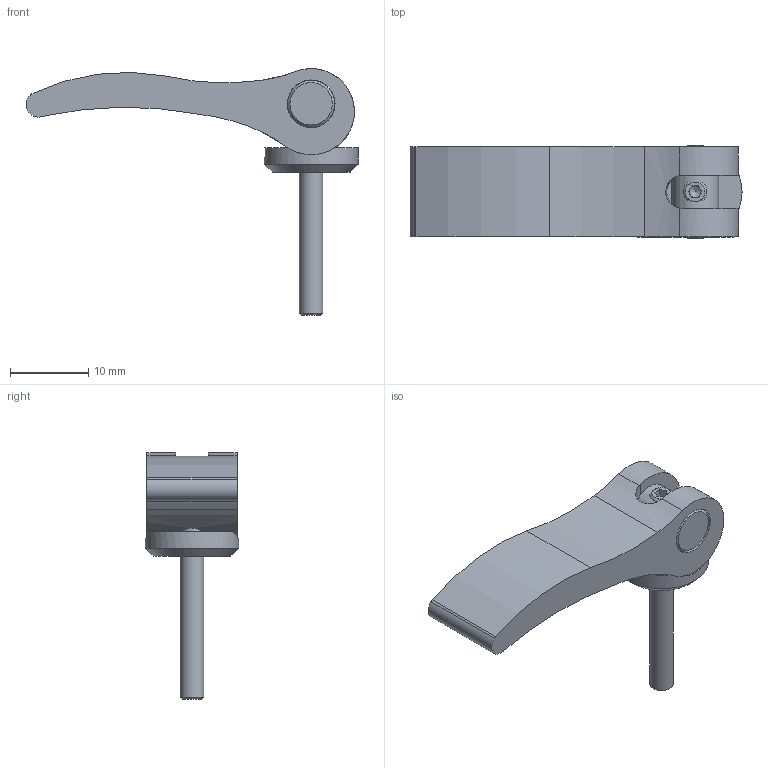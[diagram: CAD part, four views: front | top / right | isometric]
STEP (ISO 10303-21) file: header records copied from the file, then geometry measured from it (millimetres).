
FILE_DESCRIPTION(('STEP AP203'), '1');
FILE_NAME('À00360.11420310 _ Ýêñöåíòðèê 42 ìì', '', ('UNSPECIFIED'), ('UNSPECIFIED'), 'C3D Converter', 'C3D Toolkit', '');
FILE_SCHEMA(('CONFIG_CONTROL_DESIGN'));
Length unit declared in the file: millimetre
Products named in the file (5): А00360.42.03; А00360.42.02; А00360.42.01
Assembly tree (4 placements, depth 2):
  (unnamed)
    А00360.42.03
    А00360.42.02
    А00360.42.01
    (unnamed)
Bounding box: 42.36 x 11.94 x 31.5 mm (x, y, z)
Volume: 2897.8 mm3; surface area: 2582.8 mm2
Topology: 4 solids, 4 shells, 49 faces, 121 edges, 78 vertices
Faces by surface type: plane 23, cylinder 20, cone 6
Full cylindrical faces by diameter (mm): 2.459 x1, 3 x1, 4.5 x1, 6 x1, 6.1 x2, 11.94 x1
Entity records: 2388 total; most frequent: CARTESIAN_POINT 947, DIRECTION 250, ORIENTED_EDGE 214, EDGE_CURVE 107, AXIS2_PLACEMENT_3D 104, VERTEX_POINT 77, EDGE_LOOP 68, FACE_BOUND 55
